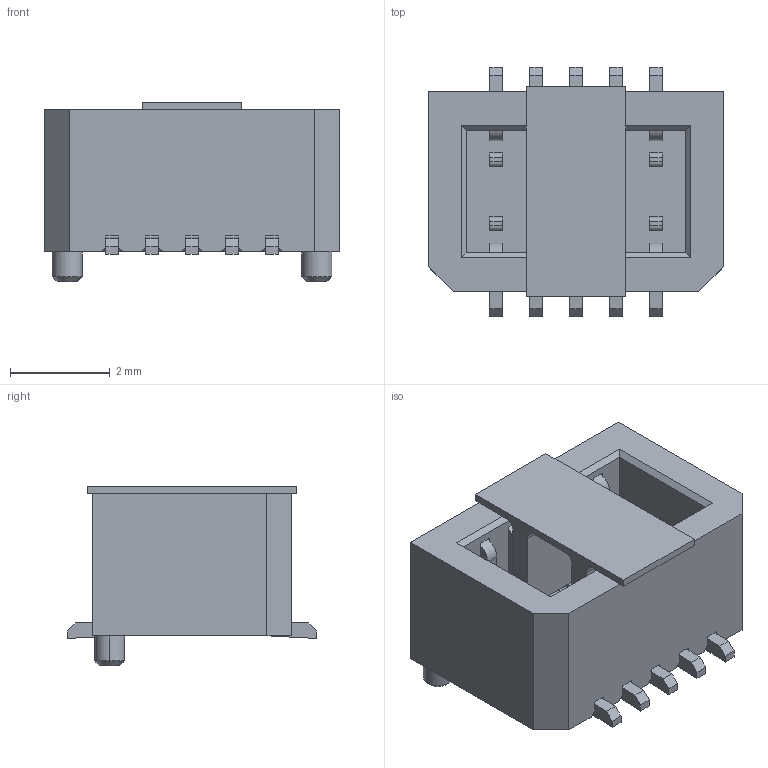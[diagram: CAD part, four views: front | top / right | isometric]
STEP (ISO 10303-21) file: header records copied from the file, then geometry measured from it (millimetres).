
FILE_DESCRIPTION(('CATIA V5 STEP Exchange'),'2;1');
FILE_NAME('F:\黄富鸿\板对板\PBB08B\母座\H2.90\带盖\HC-PBB08B-1-10-F-H2.9-XX-R-P-06 (BTB0.8 单槽 B型母座 立贴 带柱 编带+盖)-HCTL.stp','2026-01-26T06:23:18+00:00',('none'),('none'),'CATIA Version 5 Release 20 GA (IN-10)','CATIA V5 STEP AP203','none');
FILE_SCHEMA(('CONFIG_CONTROL_DESIGN'));
Length unit declared in the file: millimetre
Products named in the file (1): Part1
Bounding box: 5.9 x 5 x 3.6 mm (x, y, z)
Volume: 50.8 mm3; surface area: 252.9 mm2
Topology: 12 solids, 12 shells, 497 faces, 1472 edges, 972 vertices
Faces by surface type: plane 305, cylinder 188, cone 4
Entity records: 15583 total; most frequent: ORIENTED_EDGE 2944, CARTESIAN_POINT 2799, DIRECTION 2168, EDGE_CURVE 1472, VECTOR 1088, LINE 1088, VERTEX_POINT 972, AXIS2_PLACEMENT_3D 731
